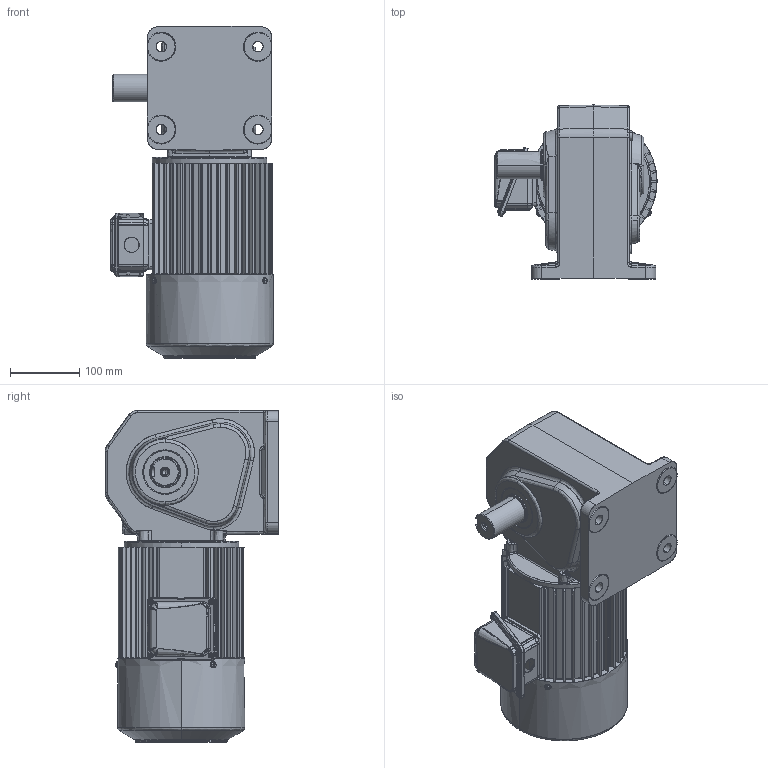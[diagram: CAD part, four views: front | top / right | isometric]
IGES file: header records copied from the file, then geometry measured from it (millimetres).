
Start section: SolidWorks IGES file using analytic representation for surfaces
Global section: file name: \\100.100.100.8\1_共有作業フォルダ\1-5_３Ｄデータ\solidworks\personal-folder\H.Nagayama\HL外形\HL(3D)\igs\TMHLB-15-(5~60)A.IGS; native system: SolidWorks 2018; preprocessor: SolidWorks 2018; author: sigma-giken; date: 200326.115841; units: millimetre
Bounding box: 235 x 252 x 481 mm (x, y, z)
Surface area: 777136.8 mm2 (no closed solid volume)
Topology: 0 solids, 0 shells, 2488 faces, 27896 edges, 27836 vertices
Faces by surface type: bspline 1300, revolution 1188
